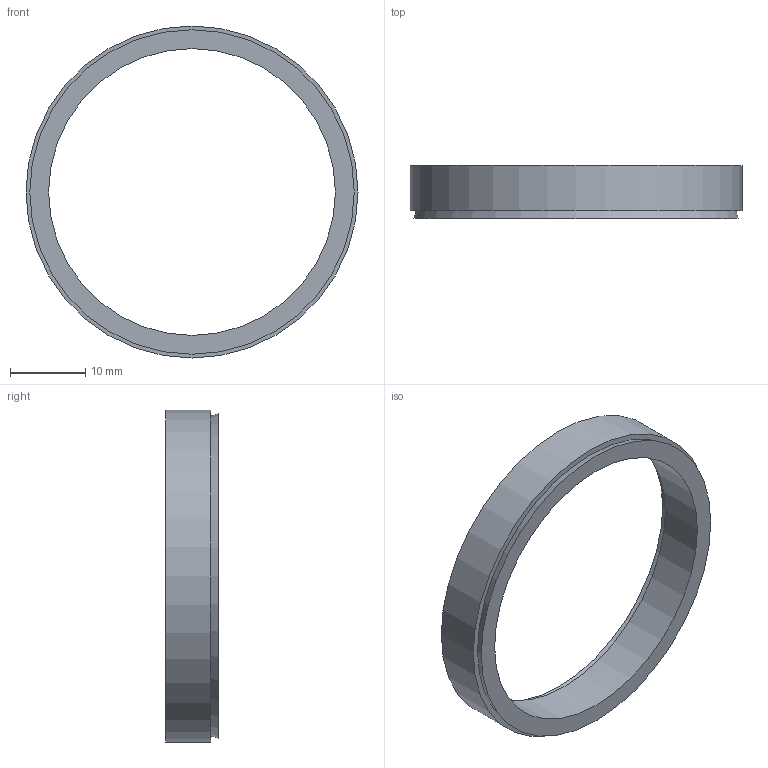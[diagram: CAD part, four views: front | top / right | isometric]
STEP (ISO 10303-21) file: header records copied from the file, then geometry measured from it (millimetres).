
FILE_DESCRIPTION( ( 'Unknown' ), '1' );
FILE_NAME( 'C:/Dokumente und Einstellungen/Sven/Desktop/homepage/cad - homepage/KBS50/KBS 50 - 38 x 44.stp', 'Unknown', ( 'Unknown' ), ( 'Unknown' ), 'XStep 1.0', 'Unknown', ' ' );
FILE_SCHEMA( ( 'automotive_design' ) );
Length unit declared in the file: millimetre
Products named in the file (1): 1
Bounding box: 44 x 7 x 44 mm (x, y, z)
Volume: 2539.3 mm3; surface area: 2660 mm2
Topology: 1 solids, 1 shells, 8 faces, 12 edges, 8 vertices
Faces by surface type: plane 4, cylinder 2, cone 2
Full cylindrical faces by diameter (mm): 38 x1, 44 x1
Entity records: 248 total; most frequent: DIRECTION 34, CARTESIAN_POINT 25, AXIS2_PLACEMENT_3D 17, EDGE_LOOP 16, ORIENTED_EDGE 16, FACE_OUTER_BOUND 10, STYLED_ITEM 8, PRESENTATION_STYLE_ASSIGNMENT 8
